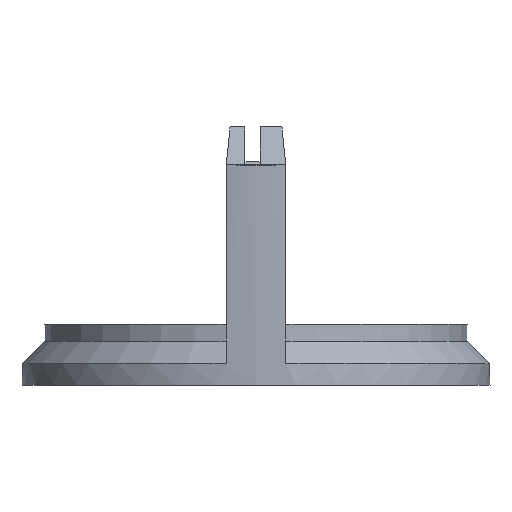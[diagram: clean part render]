
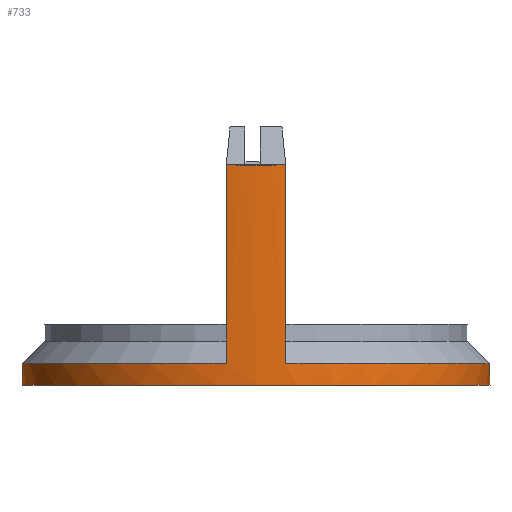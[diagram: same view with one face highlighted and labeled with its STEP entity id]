
A CAD part, left-side view. The second image highlights one B-rep face of the part: STEP entity #733.
In plain terms, the highlighted cylindrical face has radius 42.5 mm (diameter 85 mm), a full revolution.
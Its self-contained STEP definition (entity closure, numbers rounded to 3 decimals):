
#22=CYLINDRICAL_SURFACE('',#780,42.5);
#41=ELLIPSE('',#774,43.207,42.5);
#42=ELLIPSE('',#775,43.207,42.5);
#102=FACE_OUTER_BOUND('',#142,.T.);
#142=EDGE_LOOP('',(#566,#567,#568,#569,#570,#571,#572,#573,#574,#575,#576,
#577));
#192=LINE('',#1488,#243);
#196=LINE('',#1502,#247);
#197=LINE('',#1504,#248);
#198=LINE('',#1507,#249);
#199=LINE('',#1510,#250);
#243=VECTOR('',#870,10.);
#247=VECTOR('',#880,42.5);
#248=VECTOR('',#881,10.);
#249=VECTOR('',#884,10.);
#250=VECTOR('',#887,10.);
#266=CIRCLE('',#769,42.5);
#267=CIRCLE('',#781,42.5);
#268=CIRCLE('',#782,42.5);
#269=CIRCLE('',#783,42.5);
#284=VERTEX_POINT('',#973);
#285=VERTEX_POINT('',#974);
#316=VERTEX_POINT('',#1345);
#317=VERTEX_POINT('',#1346);
#318=VERTEX_POINT('',#1348);
#332=VERTEX_POINT('',#1484);
#336=VERTEX_POINT('',#1500);
#337=VERTEX_POINT('',#1503);
#338=VERTEX_POINT('',#1505);
#339=VERTEX_POINT('',#1508);
#358=EDGE_CURVE('',#284,#285,#266,.T.);
#399=EDGE_CURVE('',#316,#317,#41,.T.);
#401=EDGE_CURVE('',#317,#318,#42,.T.);
#422=EDGE_CURVE('',#285,#332,#192,.T.);
#427=EDGE_CURVE('',#336,#336,#267,.T.);
#428=EDGE_CURVE('',#336,#317,#196,.T.);
#429=EDGE_CURVE('',#318,#337,#197,.F.);
#430=EDGE_CURVE('',#337,#338,#268,.T.);
#431=EDGE_CURVE('',#338,#284,#198,.T.);
#432=EDGE_CURVE('',#332,#339,#269,.T.);
#433=EDGE_CURVE('',#339,#316,#199,.F.);
#566=ORIENTED_EDGE('',*,*,#427,.F.);
#567=ORIENTED_EDGE('',*,*,#428,.T.);
#568=ORIENTED_EDGE('',*,*,#401,.T.);
#569=ORIENTED_EDGE('',*,*,#429,.T.);
#570=ORIENTED_EDGE('',*,*,#430,.T.);
#571=ORIENTED_EDGE('',*,*,#431,.T.);
#572=ORIENTED_EDGE('',*,*,#358,.T.);
#573=ORIENTED_EDGE('',*,*,#422,.T.);
#574=ORIENTED_EDGE('',*,*,#432,.T.);
#575=ORIENTED_EDGE('',*,*,#433,.T.);
#576=ORIENTED_EDGE('',*,*,#399,.T.);
#577=ORIENTED_EDGE('',*,*,#428,.F.);
#733=ADVANCED_FACE('',(#102),#22,.T.);
#769=AXIS2_PLACEMENT_3D('',#975,#822,#823);
#774=AXIS2_PLACEMENT_3D('',#1347,#849,#850);
#775=AXIS2_PLACEMENT_3D('',#1350,#852,#853);
#780=AXIS2_PLACEMENT_3D('',#1499,#876,#877);
#781=AXIS2_PLACEMENT_3D('',#1501,#878,#879);
#782=AXIS2_PLACEMENT_3D('',#1506,#882,#883);
#783=AXIS2_PLACEMENT_3D('',#1509,#885,#886);
#822=DIRECTION('center_axis',(0.,0.,-1.));
#823=DIRECTION('ref_axis',(1.,0.,0.));
#849=DIRECTION('center_axis',(0.18,0.,-0.984));
#850=DIRECTION('ref_axis',(0.984,0.,0.18));
#852=DIRECTION('center_axis',(0.18,0.,-0.984));
#853=DIRECTION('ref_axis',(0.984,0.,0.18));
#870=DIRECTION('',(0.,0.,-1.));
#876=DIRECTION('center_axis',(0.,0.,-1.));
#877=DIRECTION('ref_axis',(1.,0.,0.));
#878=DIRECTION('center_axis',(0.,0.,-1.));
#879=DIRECTION('ref_axis',(1.,0.,0.));
#880=DIRECTION('',(0.,0.,1.));
#881=DIRECTION('',(0.,0.,1.));
#882=DIRECTION('center_axis',(0.,0.,-1.));
#883=DIRECTION('ref_axis',(1.,0.,0.));
#884=DIRECTION('',(0.,0.,1.));
#885=DIRECTION('center_axis',(0.,0.,-1.));
#886=DIRECTION('ref_axis',(1.,0.,0.));
#887=DIRECTION('',(0.,0.,-1.));
#973=CARTESIAN_POINT('',(37.003,36.176,199.047));
#974=CARTESIAN_POINT('',(37.003,25.371,199.047));
#975=CARTESIAN_POINT('Origin',(-5.152,30.773,199.047));
#1345=CARTESIAN_POINT('',(-47.307,25.371,199.047));
#1346=CARTESIAN_POINT('',(-47.652,30.773,198.983));
#1347=CARTESIAN_POINT('Origin',(-5.152,30.773,206.768));
#1348=CARTESIAN_POINT('',(-47.307,36.176,199.047));
#1350=CARTESIAN_POINT('Origin',(-5.152,30.773,206.768));
#1484=CARTESIAN_POINT('',(37.003,25.371,163.047));
#1488=CARTESIAN_POINT('',(37.003,25.371,159.047));
#1499=CARTESIAN_POINT('Origin',(-5.152,30.773,159.047));
#1500=CARTESIAN_POINT('',(-47.652,30.773,159.047));
#1501=CARTESIAN_POINT('Origin',(-5.152,30.773,159.047));
#1502=CARTESIAN_POINT('',(-47.652,30.773,159.047));
#1503=CARTESIAN_POINT('',(-47.307,36.176,163.047));
#1504=CARTESIAN_POINT('',(-47.307,36.176,159.047));
#1505=CARTESIAN_POINT('',(37.003,36.176,163.047));
#1506=CARTESIAN_POINT('Origin',(-5.152,30.773,163.047));
#1507=CARTESIAN_POINT('',(37.003,36.176,159.047));
#1508=CARTESIAN_POINT('',(-47.307,25.371,163.047));
#1509=CARTESIAN_POINT('Origin',(-5.152,30.773,163.047));
#1510=CARTESIAN_POINT('',(-47.307,25.371,159.047));
